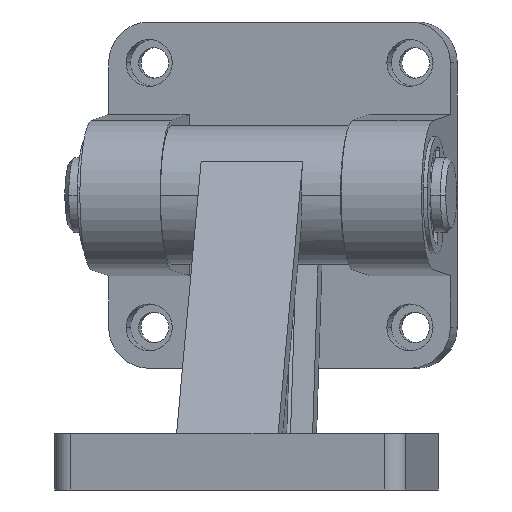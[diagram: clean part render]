
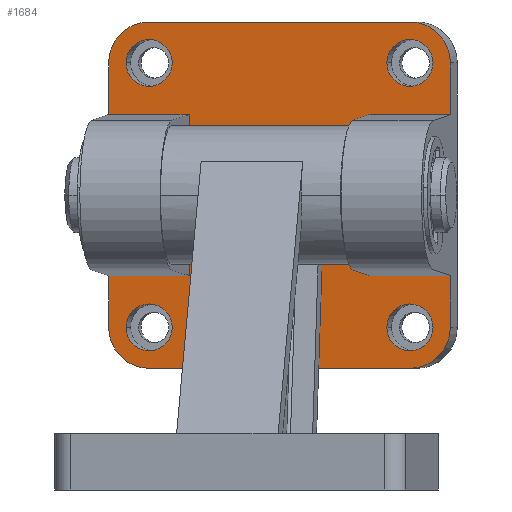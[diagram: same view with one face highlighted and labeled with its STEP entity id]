
A CAD part, left-side view. The second image highlights one B-rep face of the part: STEP entity #1684.
In plain terms, the highlighted planar face has unit normal (-0.986, 0.164, 0) as drawn and (1, 0, 0) by its records, which use the part's own axes.
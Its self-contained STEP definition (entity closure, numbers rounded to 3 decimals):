
#891=CARTESIAN_POINT('Vertex',(0.,37.,-17.201)) ;
#894=CARTESIAN_POINT('Line Origine',(0.,37.,-22.725)) ;
#898=CARTESIAN_POINT('Vertex',(0.,37.,-28.25)) ;
#919=CARTESIAN_POINT('Vertex',(0.,37.,28.25)) ;
#922=CARTESIAN_POINT('Line Origine',(0.,37.,22.725)) ;
#926=CARTESIAN_POINT('Vertex',(0.,37.,17.201)) ;
#958=CARTESIAN_POINT('Vertex',(0.,19.6,17.201)) ;
#968=CARTESIAN_POINT('Line Origine',(0.,28.3,17.201)) ;
#1138=CARTESIAN_POINT('Axis2P3D Location',(0.,28.25,-28.25)) ;
#1142=CARTESIAN_POINT('Vertex',(0.,28.25,-37.)) ;
#1168=CARTESIAN_POINT('Vertex',(0.,19.6,-17.201)) ;
#1171=CARTESIAN_POINT('Line Origine',(0.,28.3,-17.201)) ;
#1205=CARTESIAN_POINT('Line Origine',(0.,-28.3,17.201)) ;
#1209=CARTESIAN_POINT('Vertex',(0.,-37.,17.201)) ;
#1211=CARTESIAN_POINT('Vertex',(0.,-19.6,17.201)) ;
#1346=CARTESIAN_POINT('Vertex',(0.,-37.,-17.201)) ;
#1349=CARTESIAN_POINT('Line Origine',(0.,-28.3,-17.201)) ;
#1353=CARTESIAN_POINT('Vertex',(0.,-19.6,-17.201)) ;
#1373=CARTESIAN_POINT('Line Origine',(0.,-19.6,0.)) ;
#1427=CARTESIAN_POINT('Vertex',(0.,-28.25,37.)) ;
#1430=CARTESIAN_POINT('Line Origine',(0.,0.,37.)) ;
#1434=CARTESIAN_POINT('Vertex',(0.,28.25,37.)) ;
#1454=CARTESIAN_POINT('Line Origine',(0.,0.,-37.)) ;
#1458=CARTESIAN_POINT('Vertex',(0.,-28.25,-37.)) ;
#1478=CARTESIAN_POINT('Axis2P3D Location',(0.,-28.25,-28.25)) ;
#1482=CARTESIAN_POINT('Vertex',(0.,-37.,-28.25)) ;
#1502=CARTESIAN_POINT('Line Origine',(0.,-37.,22.725)) ;
#1506=CARTESIAN_POINT('Vertex',(0.,-37.,28.25)) ;
#1514=CARTESIAN_POINT('Line Origine',(0.,-37.,-22.725)) ;
#1539=CARTESIAN_POINT('Axis2P3D Location',(0.,-28.25,28.25)) ;
#1556=CARTESIAN_POINT('Axis2P3D Location',(0.,28.25,28.25)) ;
#1573=CARTESIAN_POINT('Line Origine',(0.,19.6,0.)) ;
#1589=CARTESIAN_POINT('Axis2P3D Location',(0.,0.,0.)) ;
#1612=CARTESIAN_POINT('Axis2P3D Location',(0.,28.25,28.25)) ;
#1616=CARTESIAN_POINT('Vertex',(0.,23.25,28.25)) ;
#1618=CARTESIAN_POINT('Vertex',(0.,33.25,28.25)) ;
#1621=CARTESIAN_POINT('Axis2P3D Location',(0.,28.25,28.25)) ;
#1630=CARTESIAN_POINT('Axis2P3D Location',(0.,-28.25,28.25)) ;
#1634=CARTESIAN_POINT('Vertex',(0.,-23.25,28.25)) ;
#1636=CARTESIAN_POINT('Vertex',(0.,-33.25,28.25)) ;
#1639=CARTESIAN_POINT('Axis2P3D Location',(0.,-28.25,28.25)) ;
#1648=CARTESIAN_POINT('Axis2P3D Location',(0.,-28.25,-28.25)) ;
#1652=CARTESIAN_POINT('Vertex',(0.,-23.25,-28.25)) ;
#1654=CARTESIAN_POINT('Vertex',(0.,-33.25,-28.25)) ;
#1657=CARTESIAN_POINT('Axis2P3D Location',(0.,-28.25,-28.25)) ;
#1666=CARTESIAN_POINT('Axis2P3D Location',(0.,28.25,-28.25)) ;
#1670=CARTESIAN_POINT('Vertex',(0.,23.25,-28.25)) ;
#1672=CARTESIAN_POINT('Vertex',(0.,33.25,-28.25)) ;
#1675=CARTESIAN_POINT('Axis2P3D Location',(0.,28.25,-28.25)) ;
#895=DIRECTION('Vector Direction',(0.,0.,1.)) ;
#923=DIRECTION('Vector Direction',(0.,0.,1.)) ;
#969=DIRECTION('Vector Direction',(0.,-1.,0.)) ;
#1139=DIRECTION('Axis2P3D Direction',(1.,0.,0.)) ;
#1172=DIRECTION('Vector Direction',(0.,-1.,0.)) ;
#1206=DIRECTION('Vector Direction',(0.,1.,0.)) ;
#1350=DIRECTION('Vector Direction',(0.,1.,0.)) ;
#1374=DIRECTION('Vector Direction',(0.,0.,1.)) ;
#1431=DIRECTION('Vector Direction',(0.,1.,0.)) ;
#1455=DIRECTION('Vector Direction',(0.,-1.,0.)) ;
#1479=DIRECTION('Axis2P3D Direction',(1.,0.,0.)) ;
#1503=DIRECTION('Vector Direction',(0.,0.,-1.)) ;
#1515=DIRECTION('Vector Direction',(0.,0.,-1.)) ;
#1540=DIRECTION('Axis2P3D Direction',(1.,0.,0.)) ;
#1557=DIRECTION('Axis2P3D Direction',(1.,0.,0.)) ;
#1574=DIRECTION('Vector Direction',(0.,0.,1.)) ;
#1590=DIRECTION('Axis2P3D Direction',(1.,0.,0.)) ;
#1591=DIRECTION('Axis2P3D XDirection',(0.,1.,0.)) ;
#1613=DIRECTION('Axis2P3D Direction',(1.,0.,0.)) ;
#1622=DIRECTION('Axis2P3D Direction',(1.,0.,0.)) ;
#1631=DIRECTION('Axis2P3D Direction',(1.,0.,0.)) ;
#1640=DIRECTION('Axis2P3D Direction',(1.,0.,0.)) ;
#1649=DIRECTION('Axis2P3D Direction',(1.,0.,0.)) ;
#1658=DIRECTION('Axis2P3D Direction',(1.,0.,0.)) ;
#1667=DIRECTION('Axis2P3D Direction',(1.,0.,0.)) ;
#1676=DIRECTION('Axis2P3D Direction',(1.,0.,0.)) ;
#1140=AXIS2_PLACEMENT_3D('Circle Axis2P3D',#1138,#1139,$) ;
#1480=AXIS2_PLACEMENT_3D('Circle Axis2P3D',#1478,#1479,$) ;
#1541=AXIS2_PLACEMENT_3D('Circle Axis2P3D',#1539,#1540,$) ;
#1558=AXIS2_PLACEMENT_3D('Circle Axis2P3D',#1556,#1557,$) ;
#1592=AXIS2_PLACEMENT_3D('Plane Axis2P3D',#1589,#1590,#1591) ;
#1614=AXIS2_PLACEMENT_3D('Circle Axis2P3D',#1612,#1613,$) ;
#1623=AXIS2_PLACEMENT_3D('Circle Axis2P3D',#1621,#1622,$) ;
#1632=AXIS2_PLACEMENT_3D('Circle Axis2P3D',#1630,#1631,$) ;
#1641=AXIS2_PLACEMENT_3D('Circle Axis2P3D',#1639,#1640,$) ;
#1650=AXIS2_PLACEMENT_3D('Circle Axis2P3D',#1648,#1649,$) ;
#1659=AXIS2_PLACEMENT_3D('Circle Axis2P3D',#1657,#1658,$) ;
#1668=AXIS2_PLACEMENT_3D('Circle Axis2P3D',#1666,#1667,$) ;
#1677=AXIS2_PLACEMENT_3D('Circle Axis2P3D',#1675,#1676,$) ;
#1595=ORIENTED_EDGE('',*,*,#1518,.T.) ;
#1596=ORIENTED_EDGE('',*,*,#1484,.T.) ;
#1597=ORIENTED_EDGE('',*,*,#1460,.T.) ;
#1598=ORIENTED_EDGE('',*,*,#1144,.T.) ;
#1599=ORIENTED_EDGE('',*,*,#900,.T.) ;
#1600=ORIENTED_EDGE('',*,*,#1175,.T.) ;
#1601=ORIENTED_EDGE('',*,*,#1577,.T.) ;
#1602=ORIENTED_EDGE('',*,*,#972,.F.) ;
#1603=ORIENTED_EDGE('',*,*,#928,.T.) ;
#1604=ORIENTED_EDGE('',*,*,#1560,.T.) ;
#1605=ORIENTED_EDGE('',*,*,#1436,.T.) ;
#1606=ORIENTED_EDGE('',*,*,#1543,.T.) ;
#1607=ORIENTED_EDGE('',*,*,#1508,.T.) ;
#1608=ORIENTED_EDGE('',*,*,#1213,.T.) ;
#1609=ORIENTED_EDGE('',*,*,#1377,.F.) ;
#1610=ORIENTED_EDGE('',*,*,#1355,.F.) ;
#1627=ORIENTED_EDGE('',*,*,#1620,.F.) ;
#1628=ORIENTED_EDGE('',*,*,#1625,.F.) ;
#1645=ORIENTED_EDGE('',*,*,#1638,.F.) ;
#1646=ORIENTED_EDGE('',*,*,#1643,.F.) ;
#1663=ORIENTED_EDGE('',*,*,#1656,.F.) ;
#1664=ORIENTED_EDGE('',*,*,#1661,.F.) ;
#1681=ORIENTED_EDGE('',*,*,#1674,.F.) ;
#1682=ORIENTED_EDGE('',*,*,#1679,.F.) ;
#1629=FACE_BOUND('',#1626,.T.) ;
#1647=FACE_BOUND('',#1644,.T.) ;
#1665=FACE_BOUND('',#1662,.T.) ;
#1683=FACE_BOUND('',#1680,.T.) ;
#896=VECTOR('Line Direction',#895,1.) ;
#924=VECTOR('Line Direction',#923,1.) ;
#970=VECTOR('Line Direction',#969,1.) ;
#1173=VECTOR('Line Direction',#1172,1.) ;
#1207=VECTOR('Line Direction',#1206,1.) ;
#1351=VECTOR('Line Direction',#1350,1.) ;
#1375=VECTOR('Line Direction',#1374,1.) ;
#1432=VECTOR('Line Direction',#1431,1.) ;
#1456=VECTOR('Line Direction',#1455,1.) ;
#1504=VECTOR('Line Direction',#1503,1.) ;
#1516=VECTOR('Line Direction',#1515,1.) ;
#1575=VECTOR('Line Direction',#1574,1.) ;
#1684=ADVANCED_FACE('PartBody',(#1611,#1629,#1647,#1665,#1683),#1593,.T.) ;
#1141=CIRCLE('generated circle',#1140,8.75) ;
#1481=CIRCLE('generated circle',#1480,8.75) ;
#1542=CIRCLE('generated circle',#1541,8.75) ;
#1559=CIRCLE('generated circle',#1558,8.75) ;
#1615=CIRCLE('generated circle',#1614,5.) ;
#1624=CIRCLE('generated circle',#1623,5.) ;
#1633=CIRCLE('generated circle',#1632,5.) ;
#1642=CIRCLE('generated circle',#1641,5.) ;
#1651=CIRCLE('generated circle',#1650,5.) ;
#1660=CIRCLE('generated circle',#1659,5.) ;
#1669=CIRCLE('generated circle',#1668,5.) ;
#1678=CIRCLE('generated circle',#1677,5.) ;
#900=EDGE_CURVE('',#899,#892,#897,.T.) ;
#928=EDGE_CURVE('',#927,#920,#925,.T.) ;
#972=EDGE_CURVE('',#927,#959,#971,.T.) ;
#1144=EDGE_CURVE('',#1143,#899,#1141,.T.) ;
#1175=EDGE_CURVE('',#892,#1169,#1174,.T.) ;
#1213=EDGE_CURVE('',#1210,#1212,#1208,.T.) ;
#1355=EDGE_CURVE('',#1347,#1354,#1352,.T.) ;
#1377=EDGE_CURVE('',#1354,#1212,#1376,.T.) ;
#1436=EDGE_CURVE('',#1435,#1428,#1433,.F.) ;
#1460=EDGE_CURVE('',#1459,#1143,#1457,.F.) ;
#1484=EDGE_CURVE('',#1483,#1459,#1481,.T.) ;
#1508=EDGE_CURVE('',#1507,#1210,#1505,.T.) ;
#1518=EDGE_CURVE('',#1347,#1483,#1517,.T.) ;
#1543=EDGE_CURVE('',#1428,#1507,#1542,.T.) ;
#1560=EDGE_CURVE('',#920,#1435,#1559,.T.) ;
#1577=EDGE_CURVE('',#1169,#959,#1576,.T.) ;
#1620=EDGE_CURVE('',#1617,#1619,#1615,.T.) ;
#1625=EDGE_CURVE('',#1619,#1617,#1624,.T.) ;
#1638=EDGE_CURVE('',#1635,#1637,#1633,.T.) ;
#1643=EDGE_CURVE('',#1637,#1635,#1642,.T.) ;
#1656=EDGE_CURVE('',#1653,#1655,#1651,.T.) ;
#1661=EDGE_CURVE('',#1655,#1653,#1660,.T.) ;
#1674=EDGE_CURVE('',#1671,#1673,#1669,.T.) ;
#1679=EDGE_CURVE('',#1673,#1671,#1678,.T.) ;
#1594=EDGE_LOOP('',(#1595,#1596,#1597,#1598,#1599,#1600,#1601,#1602,#1603,#1604,#1605,#1606,#1607,#1608,#1609,#1610)) ;
#1626=EDGE_LOOP('',(#1627,#1628)) ;
#1644=EDGE_LOOP('',(#1645,#1646)) ;
#1662=EDGE_LOOP('',(#1663,#1664)) ;
#1680=EDGE_LOOP('',(#1681,#1682)) ;
#1611=FACE_OUTER_BOUND('',#1594,.T.) ;
#897=LINE('Line',#894,#896) ;
#925=LINE('Line',#922,#924) ;
#971=LINE('Line',#968,#970) ;
#1174=LINE('Line',#1171,#1173) ;
#1208=LINE('Line',#1205,#1207) ;
#1352=LINE('Line',#1349,#1351) ;
#1376=LINE('Line',#1373,#1375) ;
#1433=LINE('Line',#1430,#1432) ;
#1457=LINE('Line',#1454,#1456) ;
#1505=LINE('Line',#1502,#1504) ;
#1517=LINE('Line',#1514,#1516) ;
#1576=LINE('Line',#1573,#1575) ;
#1593=PLANE('',#1592) ;
#892=VERTEX_POINT('',#891) ;
#899=VERTEX_POINT('',#898) ;
#920=VERTEX_POINT('',#919) ;
#927=VERTEX_POINT('',#926) ;
#959=VERTEX_POINT('',#958) ;
#1143=VERTEX_POINT('',#1142) ;
#1169=VERTEX_POINT('',#1168) ;
#1210=VERTEX_POINT('',#1209) ;
#1212=VERTEX_POINT('',#1211) ;
#1347=VERTEX_POINT('',#1346) ;
#1354=VERTEX_POINT('',#1353) ;
#1428=VERTEX_POINT('',#1427) ;
#1435=VERTEX_POINT('',#1434) ;
#1459=VERTEX_POINT('',#1458) ;
#1483=VERTEX_POINT('',#1482) ;
#1507=VERTEX_POINT('',#1506) ;
#1617=VERTEX_POINT('',#1616) ;
#1619=VERTEX_POINT('',#1618) ;
#1635=VERTEX_POINT('',#1634) ;
#1637=VERTEX_POINT('',#1636) ;
#1653=VERTEX_POINT('',#1652) ;
#1655=VERTEX_POINT('',#1654) ;
#1671=VERTEX_POINT('',#1670) ;
#1673=VERTEX_POINT('',#1672) ;
